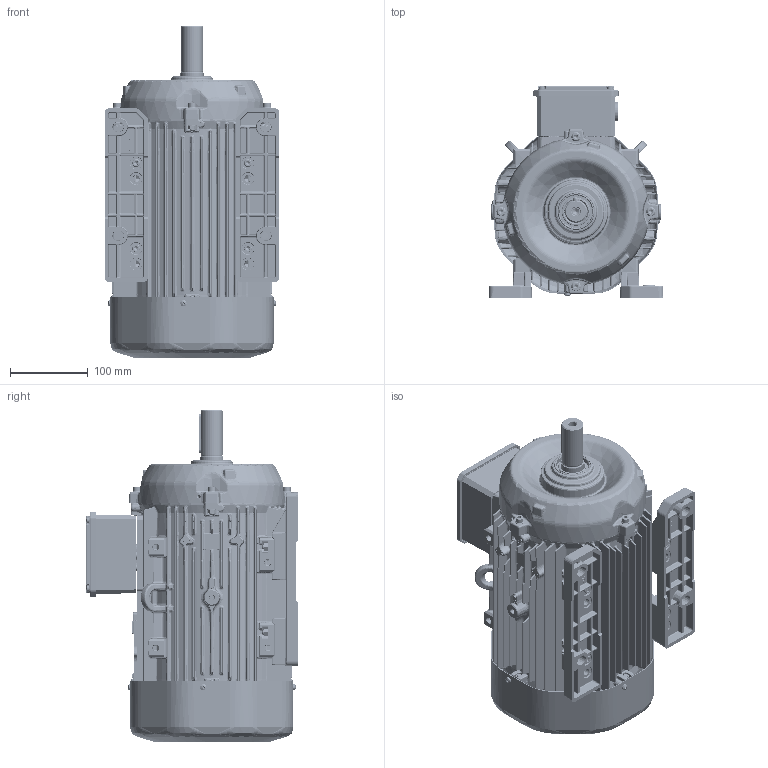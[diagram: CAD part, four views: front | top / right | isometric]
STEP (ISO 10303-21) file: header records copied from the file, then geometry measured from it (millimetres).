
FILE_DESCRIPTION(/* description */ (''),/* implementation_level */ '2;1');
FILE_NAME(/* name */ 'OUTLOOK VIEW QH112 KT B3 SPL.stp',/* time_stamp */ '2021-09-13T12:46:36+03:00',/* author */ (''),/* organization */ (''),/* preprocessor_version */ 'ST-DEVELOPER v16',/* originating_system */ 'SIEMENS PLM Software NX 11.0',/* authorisation */ '');
FILE_SCHEMA (('AUTOMOTIVE_DESIGN { 1 0 10303 214 3 1 1 1 }'));
Length unit declared in the file: millimetre
Products named in the file (1): 26062CE45B9Cd5vr
Bounding box: 225.12 x 274 x 427.6 mm (x, y, z)
Volume: 2529777.3 mm3; surface area: 1260169.9 mm2
Topology: 80 solids, 86 shells, 13111 faces, 30913 edges, 17480 vertices
Faces by surface type: cylinder 4263, bspline 3876, plane 2644, sphere 1010, torus 638, cone 626, extrusion 54
Full cylindrical faces by diameter (mm): 2 x14, 3 x2, 3.3 x4, 3.7 x4, 3.985 x1, 4 x9, 4.22 x1, 4.6 x3, 4.722 x2, 5 x11, 6 x12, 6.4 x16, 8 x9, 8.4 x1, 8.5 x1, 10 x12, 10.5 x1, 12 x12, 16 x1, 23.38 x2, 24.4 x1, 25 x3, 27.4 x1, 28 x1, 28.6 x1, 29.4 x2, 30 x5, 30.2 x1, 30.5 x1, 32.94 x1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
Entity records: 448439 total; most frequent: CARTESIAN_POINT 174487, ORIENTED_EDGE 59030, DIRECTION 54143, EDGE_CURVE 29515, AXIS2_PLACEMENT_3D 22319, VERTEX_POINT 17287, EDGE_LOOP 14298, ADVANCED_FACE 13104
